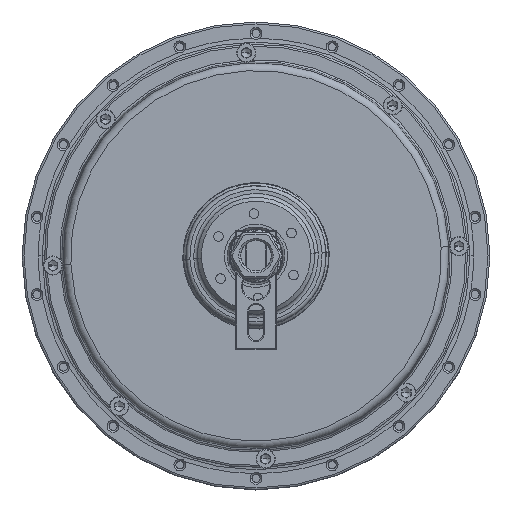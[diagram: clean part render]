
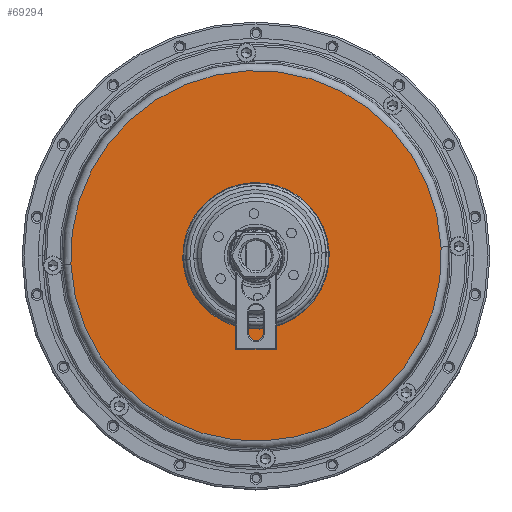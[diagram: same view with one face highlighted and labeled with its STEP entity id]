
A CAD part, top view. The second image highlights one B-rep face of the part: STEP entity #69294.
In plain terms, the highlighted planar face has unit normal (0, 0, 1).
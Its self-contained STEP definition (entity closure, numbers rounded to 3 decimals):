
#944 = EDGE_LOOP ( 'NONE', ( #49288, #54202 ) ) ;
#2173 = FACE_OUTER_BOUND ( 'NONE', #68099, .T. ) ;
#11895 = EDGE_CURVE ( 'NONE', #43684, #16321, #62923, .T. ) ;
#14020 = DIRECTION ( 'NONE',  ( 1., 0., 0. ) ) ;
#16321 = VERTEX_POINT ( 'NONE', #77396 ) ;
#21839 = EDGE_CURVE ( 'NONE', #16321, #43684, #56822, .T. ) ;
#23786 = DIRECTION ( 'NONE',  ( 0., 0., -1. ) ) ;
#24150 = EDGE_CURVE ( 'NONE', #29945, #69528, #24826, .T. ) ;
#24368 = CARTESIAN_POINT ( 'NONE',  ( 96.638, 0., 19. ) ) ;
#24826 = CIRCLE ( 'NONE', #80578, 96.638 ) ;
#26878 = DIRECTION ( 'NONE',  ( 1., 0., 0. ) ) ;
#28104 = CARTESIAN_POINT ( 'NONE',  ( -38.207, 0., 19. ) ) ;
#29672 = DIRECTION ( 'NONE',  ( 1., 0., 0. ) ) ;
#29945 = VERTEX_POINT ( 'NONE', #95049 ) ;
#29995 = CARTESIAN_POINT ( 'NONE',  ( -96.638, 0., 19. ) ) ;
#30321 = PLANE ( 'NONE',  #45538 ) ;
#35676 = CARTESIAN_POINT ( 'NONE',  ( 0., 0., 19. ) ) ;
#38063 = DIRECTION ( 'NONE',  ( 0., 0., -1. ) ) ;
#43684 = VERTEX_POINT ( 'NONE', #28104 ) ;
#44113 = AXIS2_PLACEMENT_3D ( 'NONE', #35676, #87462, #26878 ) ;
#45538 = AXIS2_PLACEMENT_3D ( 'NONE', #29995, #67627, #29672 ) ;
#49288 = ORIENTED_EDGE ( 'NONE', *, *, #21839, .T. ) ;
#50676 = AXIS2_PLACEMENT_3D ( 'NONE', #89979, #23786, #74861 ) ;
#52659 = FACE_BOUND ( 'NONE', #944, .T. ) ;
#54202 = ORIENTED_EDGE ( 'NONE', *, *, #11895, .T. ) ;
#55423 = ORIENTED_EDGE ( 'NONE', *, *, #24150, .F. ) ;
#56822 = CIRCLE ( 'NONE', #96873, 38.207 ) ;
#60546 = EDGE_CURVE ( 'NONE', #69528, #29945, #69877, .T. ) ;
#62923 = CIRCLE ( 'NONE', #44113, 38.207 ) ;
#67090 = DIRECTION ( 'NONE',  ( 0., 0., -1. ) ) ;
#67627 = DIRECTION ( 'NONE',  ( 0., 0., 1. ) ) ;
#68099 = EDGE_LOOP ( 'NONE', ( #55423, #70772 ) ) ;
#69294 = ADVANCED_FACE ( 'NONE', ( #52659, #2173 ), #30321, .T. ) ;
#69528 = VERTEX_POINT ( 'NONE', #24368 ) ;
#69877 = CIRCLE ( 'NONE', #50676, 96.638 ) ;
#70772 = ORIENTED_EDGE ( 'NONE', *, *, #60546, .F. ) ;
#74724 = DIRECTION ( 'NONE',  ( -1., 0., 0. ) ) ;
#74861 = DIRECTION ( 'NONE',  ( -1., 0., 0. ) ) ;
#77396 = CARTESIAN_POINT ( 'NONE',  ( 38.207, 0., 19. ) ) ;
#80578 = AXIS2_PLACEMENT_3D ( 'NONE', #97085, #38063, #74724 ) ;
#87462 = DIRECTION ( 'NONE',  ( 0., 0., -1. ) ) ;
#89083 = CARTESIAN_POINT ( 'NONE',  ( 0., 0., 19. ) ) ;
#89979 = CARTESIAN_POINT ( 'NONE',  ( 0., 0., 19. ) ) ;
#95049 = CARTESIAN_POINT ( 'NONE',  ( -96.638, 0., 19. ) ) ;
#96873 = AXIS2_PLACEMENT_3D ( 'NONE', #89083, #67090, #14020 ) ;
#97085 = CARTESIAN_POINT ( 'NONE',  ( 0., 0., 19. ) ) ;
